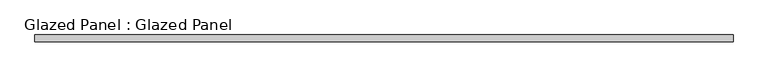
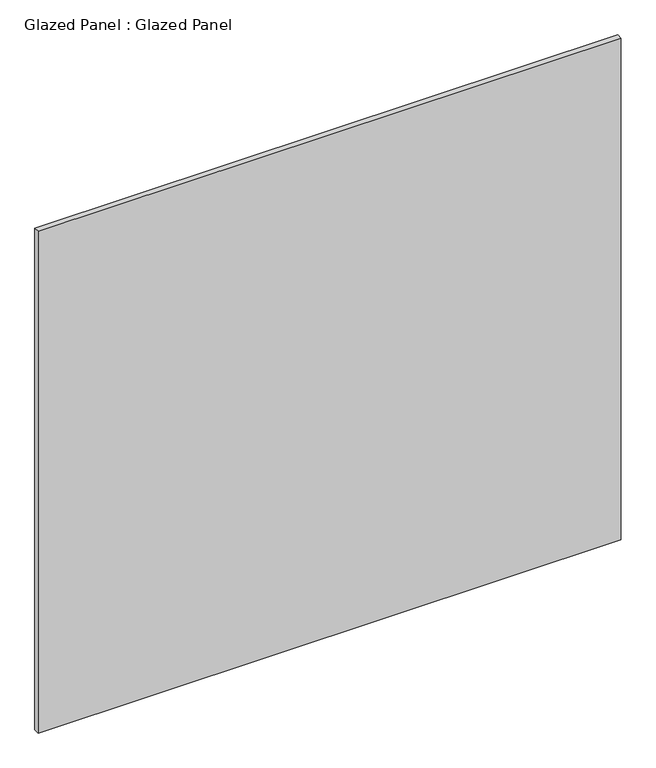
"""IFC4 building model written with IfcOpenShell, lengths in millimetres: plate geometry, Glazed Panel : Glazed Panel."""

from ifc_helpers import new_model, si_unit, origin, origin_with_axes, place, context, project, spatial, polyline, outline, extrude, source, transform, mapped, element, save


def glazed_panel_glazed_panel_88f23e64(model_context):
    return source(origin(), model_context, "Body", "SweptSolid", [
        extrude(outline(polyline([(1323.084834, 38.1), (-1323.084834, 38.1), (-1323.084834, 63.5), (1323.084834, 63.5), (1323.084834, 38.1)])), origin_with_axes(), (0.0, 0.0, 1.0), 2406.65),
    ])


if __name__ == "__main__":
    model = new_model("IFC4")
    model_context = context("Model", 3, world=origin())
    ifc_project = project(units=[si_unit("LENGTHUNIT", "METRE", prefix="MILLI")], contexts=[model_context])
    site = spatial("IfcSite", under=ifc_project)
    building = spatial("IfcBuilding", under=site)
    placement = place(None, origin())
    glazed_panel_glazed_panel_shape = glazed_panel_glazed_panel_88f23e64(model_context)
    element("IfcPlate", 1, ObjectType="Glazed Panel : Glazed Panel", at=placement, inside=building, context=model_context, shape_type="MappedRepresentation", body=[
        mapped(glazed_panel_glazed_panel_shape, transform((0.0, 0.0, 0.0), x_axis=(1.0, 0.0, 0.0), y_axis=(0.0, 1.0, 0.0), z_axis=(0.0, 0.0, 1.0))),
    ])
    save(model, "model.ifc")
